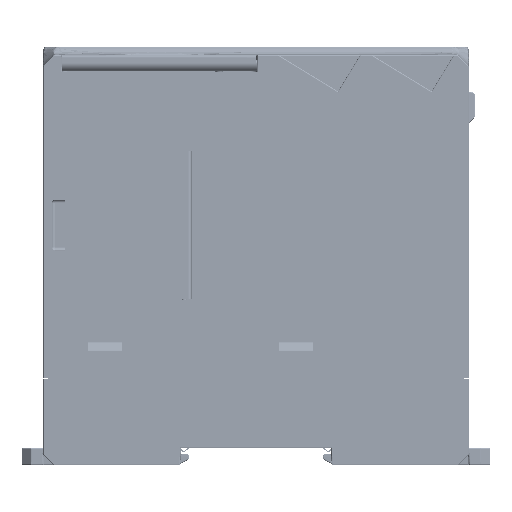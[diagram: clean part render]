
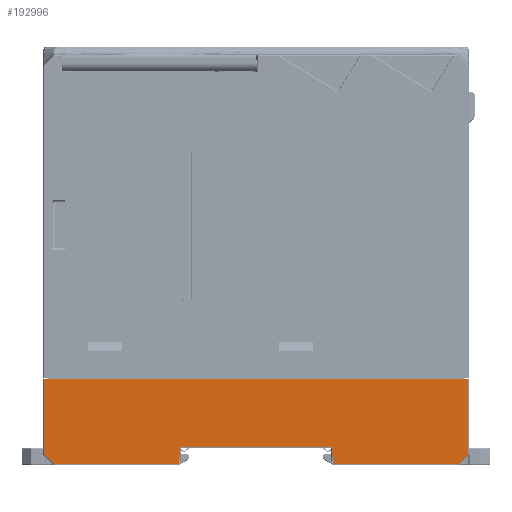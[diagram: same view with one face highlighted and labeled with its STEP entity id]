
A CAD part, left-side view. The second image highlights one B-rep face of the part: STEP entity #192996.
In plain terms, the highlighted planar face has unit normal (-1, 0, 0).
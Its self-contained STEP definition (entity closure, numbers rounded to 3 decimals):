
#174229=DIRECTION('',(0.,0.,-1.));
#174230=VECTOR('',#174229,17.796);
#174231=CARTESIAN_POINT('',(-41.,99.75,-76.1));
#174232=LINE('',#174231,#174230);
#174237=DIRECTION('',(0.,0.707,-0.707));
#174238=VECTOR('',#174237,3.328);
#174239=CARTESIAN_POINT('',(-41.,0.25,-93.896));
#174240=LINE('',#174239,#174238);
#174241=DIRECTION('',(0.,0.017,1.));
#174242=VECTOR('',#174241,4.001);
#174243=CARTESIAN_POINT('',(-41.,31.985,-96.25));
#174244=LINE('',#174243,#174242);
#174245=DIRECTION('',(0.,0.017,-1.));
#174246=VECTOR('',#174245,4.001);
#174247=CARTESIAN_POINT('',(-41.,67.946,-92.25));
#174248=LINE('',#174247,#174246);
#174249=DIRECTION('',(0.,0.707,0.707));
#174250=VECTOR('',#174249,3.328);
#174251=CARTESIAN_POINT('',(-41.,97.396,-96.25));
#174252=LINE('',#174251,#174250);
#174253=DIRECTION('',(0.,-1.,0.));
#174254=VECTOR('',#174253,99.5);
#174255=CARTESIAN_POINT('',(-41.,99.75,-76.1));
#174256=LINE('',#174255,#174254);
#174261=DIRECTION('',(0.,0.,1.));
#174262=VECTOR('',#174261,17.796);
#174263=CARTESIAN_POINT('',(-41.,0.25,-93.896));
#174264=LINE('',#174263,#174262);
#181930=DIRECTION('',(0.,-1.,0.));
#181931=VECTOR('',#181930,29.381);
#181932=CARTESIAN_POINT('',(-41.,97.396,-96.25));
#181933=LINE('',#181932,#181931);
#182069=DIRECTION('',(0.,-1.,0.));
#182070=VECTOR('',#182069,35.891);
#182071=CARTESIAN_POINT('',(-41.,67.946,-92.25));
#182072=LINE('',#182071,#182070);
#182451=DIRECTION('',(0.,-1.,0.));
#182452=VECTOR('',#182451,29.381);
#182453=CARTESIAN_POINT('',(-41.,31.985,-96.25));
#182454=LINE('',#182453,#182452);
#187616=CARTESIAN_POINT('',(-41.,0.25,-76.1));
#187617=VERTEX_POINT('',#187616);
#187618=CARTESIAN_POINT('',(-41.,99.75,-76.1));
#187619=VERTEX_POINT('',#187618);
#188753=CARTESIAN_POINT('',(-41.,99.75,-93.896));
#188754=VERTEX_POINT('',#188753);
#188755=CARTESIAN_POINT('',(-41.,0.25,-93.896));
#188756=VERTEX_POINT('',#188755);
#188757=CARTESIAN_POINT('',(-41.,2.604,-96.25));
#188758=VERTEX_POINT('',#188757);
#188759=CARTESIAN_POINT('',(-41.,31.985,-96.25));
#188760=VERTEX_POINT('',#188759);
#188761=CARTESIAN_POINT('',(-41.,32.054,-92.25));
#188762=VERTEX_POINT('',#188761);
#188763=CARTESIAN_POINT('',(-41.,67.946,-92.25));
#188764=VERTEX_POINT('',#188763);
#188765=CARTESIAN_POINT('',(-41.,68.015,-96.25));
#188766=VERTEX_POINT('',#188765);
#188767=CARTESIAN_POINT('',(-41.,97.396,-96.25));
#188768=VERTEX_POINT('',#188767);
#192971=CARTESIAN_POINT('',(-41.,0.,-76.));
#192972=DIRECTION('',(-1.,0.,0.));
#192973=DIRECTION('',(0.,1.,0.));
#192974=AXIS2_PLACEMENT_3D('',#192971,#192972,#192973);
#192975=PLANE('',#192974);
#192977=ORIENTED_EDGE('',*,*,#192976,.F.);
#192979=ORIENTED_EDGE('',*,*,#192978,.T.);
#192981=ORIENTED_EDGE('',*,*,#192980,.F.);
#192983=ORIENTED_EDGE('',*,*,#192982,.T.);
#192985=ORIENTED_EDGE('',*,*,#192984,.F.);
#192987=ORIENTED_EDGE('',*,*,#192986,.T.);
#192989=ORIENTED_EDGE('',*,*,#192988,.F.);
#192991=ORIENTED_EDGE('',*,*,#192990,.T.);
#192992=ORIENTED_EDGE('',*,*,#192963,.F.);
#192993=ORIENTED_EDGE('',*,*,#191735,.T.);
#192994=EDGE_LOOP('',(#192977,#192979,#192981,#192983,#192985,#192987,#192989,
#192991,#192992,#192993));
#192995=FACE_OUTER_BOUND('',#192994,.F.);
#192996=ADVANCED_FACE('',(#192995),#192975,.T.);
#191735=EDGE_CURVE('',#187619,#187617,#174256,.T.);
#192963=EDGE_CURVE('',#187619,#188754,#174232,.T.);
#192976=EDGE_CURVE('',#188756,#187617,#174264,.T.);
#192978=EDGE_CURVE('',#188756,#188758,#174240,.T.);
#192980=EDGE_CURVE('',#188760,#188758,#182454,.T.);
#192982=EDGE_CURVE('',#188760,#188762,#174244,.T.);
#192984=EDGE_CURVE('',#188764,#188762,#182072,.T.);
#192986=EDGE_CURVE('',#188764,#188766,#174248,.T.);
#192988=EDGE_CURVE('',#188768,#188766,#181933,.T.);
#192990=EDGE_CURVE('',#188768,#188754,#174252,.T.);
